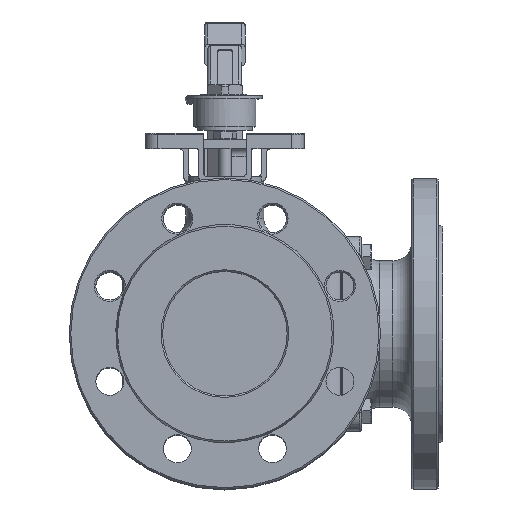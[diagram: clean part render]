
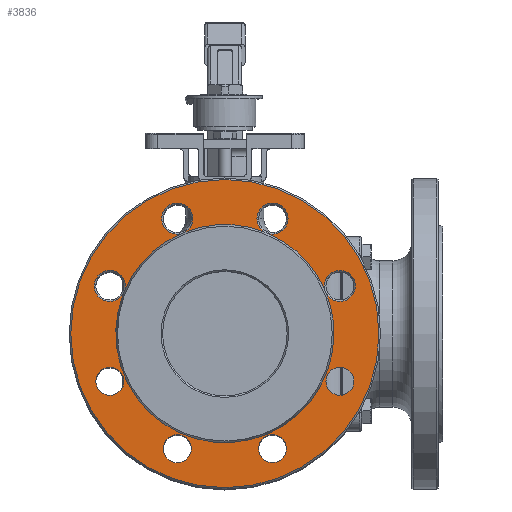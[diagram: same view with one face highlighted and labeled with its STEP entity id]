
A CAD part, top view. The second image highlights one B-rep face of the part: STEP entity #3836.
In plain terms, the highlighted planar face has unit normal (0, 0, 1).
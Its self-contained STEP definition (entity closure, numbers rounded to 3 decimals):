
#3836=ADVANCED_FACE('',(#11734,#11736,#11738,#11740,#11742,#11744),#11746,.T.);
#11734=FACE_BOUND('',#11735,.T.);
#11735=EDGE_LOOP('',(#17762));
#11736=FACE_BOUND('',#11737,.T.);
#11737=EDGE_LOOP('',(#17763,#17764,#17765,#17766,#17767,#17768,#17769,#17770,#17771,
#17772,#17773,#17774,#17775));
#11738=FACE_BOUND('',#11739,.T.);
#11739=EDGE_LOOP('',(#17776));
#11740=FACE_BOUND('',#11741,.T.);
#11741=EDGE_LOOP('',(#17777));
#11742=FACE_BOUND('',#11743,.T.);
#11743=EDGE_LOOP('',(#17778));
#11744=FACE_BOUND('',#11745,.T.);
#11745=EDGE_LOOP('',(#17779));
#11746=PLANE('',#11747);
#11747=AXIS2_PLACEMENT_3D('',#11748,#11749,#11750);
#11748=CARTESIAN_POINT('',(0.,0.,137.));
#11749=DIRECTION('',(0.,0.,1.));
#11750=DIRECTION('',(1.,0.,0.));
#17762=ORIENTED_EDGE('',*,*,#20704,.F.);
#17763=ORIENTED_EDGE('',*,*,#20705,.F.);
#17764=ORIENTED_EDGE('',*,*,#20706,.F.);
#17765=ORIENTED_EDGE('',*,*,#20707,.F.);
#17766=ORIENTED_EDGE('',*,*,#20708,.F.);
#17767=ORIENTED_EDGE('',*,*,#20709,.F.);
#17768=ORIENTED_EDGE('',*,*,#20710,.F.);
#17769=ORIENTED_EDGE('',*,*,#20711,.F.);
#17770=ORIENTED_EDGE('',*,*,#20712,.F.);
#17771=ORIENTED_EDGE('',*,*,#20713,.F.);
#17772=ORIENTED_EDGE('',*,*,#20714,.F.);
#17773=ORIENTED_EDGE('',*,*,#20715,.F.);
#17774=ORIENTED_EDGE('',*,*,#20716,.F.);
#17775=ORIENTED_EDGE('',*,*,#20717,.F.);
#17776=ORIENTED_EDGE('',*,*,#20645,.T.);
#17777=ORIENTED_EDGE('',*,*,#20640,.T.);
#17778=ORIENTED_EDGE('',*,*,#20639,.T.);
#17779=ORIENTED_EDGE('',*,*,#20638,.T.);
#20638=EDGE_CURVE('',#23882,#23882,#23883,.T.);
#20639=EDGE_CURVE('',#23884,#23884,#23885,.T.);
#20640=EDGE_CURVE('',#23886,#23886,#23887,.T.);
#20645=EDGE_CURVE('',#23896,#23896,#23897,.T.);
#20704=EDGE_CURVE('',#24001,#24001,#24002,.T.);
#20705=EDGE_CURVE('',#24003,#24004,#24005,.T.);
#20706=EDGE_CURVE('',#24006,#24003,#24007,.T.);
#20707=EDGE_CURVE('',#24008,#24006,#24009,.T.);
#20708=EDGE_CURVE('',#24010,#24008,#24011,.T.);
#20709=EDGE_CURVE('',#24012,#24010,#24013,.T.);
#20710=EDGE_CURVE('',#24014,#24012,#24015,.T.);
#20711=EDGE_CURVE('',#24016,#24014,#24017,.T.);
#20712=EDGE_CURVE('',#24018,#24016,#24019,.T.);
#20713=EDGE_CURVE('',#24020,#24018,#24021,.T.);
#20714=EDGE_CURVE('',#24022,#24020,#24023,.T.);
#20715=EDGE_CURVE('',#24024,#24022,#24025,.T.);
#20716=EDGE_CURVE('',#24026,#24024,#24027,.T.);
#20717=EDGE_CURVE('',#24004,#24026,#24028,.T.);
#23882=VERTEX_POINT('',#40430);
#23883=CIRCLE('',#40431,9.);
#23884=VERTEX_POINT('',#40435);
#23885=CIRCLE('',#40436,9.);
#23886=VERTEX_POINT('',#40440);
#23887=CIRCLE('',#40441,9.);
#23896=VERTEX_POINT('',#40465);
#23897=CIRCLE('',#40466,9.);
#24001=VERTEX_POINT('',#40883);
#24002=CIRCLE('',#40884,99.);
#24003=VERTEX_POINT('',#40888);
#24004=VERTEX_POINT('',#40889);
#24005=CIRCLE('',#40890,10.);
#24006=VERTEX_POINT('',#40894);
#24007=CIRCLE('',#40895,70.092);
#24008=VERTEX_POINT('',#40899);
#24009=CIRCLE('',#40900,10.);
#24010=VERTEX_POINT('',#40904);
#24011=CIRCLE('',#40905,10.);
#24012=VERTEX_POINT('',#40909);
#24013=CIRCLE('',#40910,70.092);
#24014=VERTEX_POINT('',#40914);
#24015=CIRCLE('',#40915,10.);
#24016=VERTEX_POINT('',#40919);
#24017=CIRCLE('',#40920,10.);
#24018=VERTEX_POINT('',#40924);
#24019=CIRCLE('',#40925,70.092);
#24020=VERTEX_POINT('',#40929);
#24021=CIRCLE('',#40930,10.);
#24022=VERTEX_POINT('',#40934);
#24023=CIRCLE('',#40935,10.);
#24024=VERTEX_POINT('',#40939);
#24025=CIRCLE('',#40940,70.092);
#24026=VERTEX_POINT('',#40944);
#24027=CIRCLE('',#40945,70.092);
#24028=CIRCLE('',#40949,10.);
#40430=CARTESIAN_POINT('',(39.615,-73.91,137.));
#40431=AXIS2_PLACEMENT_3D('',#40432,#40433,#40434);
#40432=CARTESIAN_POINT('',(30.615,-73.91,137.));
#40433=DIRECTION('',(0.,0.,-1.));
#40434=DIRECTION('',(1.,0.,0.));
#40435=CARTESIAN_POINT('',(-21.615,-73.91,137.));
#40436=AXIS2_PLACEMENT_3D('',#40437,#40438,#40439);
#40437=CARTESIAN_POINT('',(-30.615,-73.91,137.));
#40438=DIRECTION('',(0.,0.,-1.));
#40439=DIRECTION('',(1.,0.,0.));
#40440=CARTESIAN_POINT('',(-64.91,-30.615,137.));
#40441=AXIS2_PLACEMENT_3D('',#40442,#40443,#40444);
#40442=CARTESIAN_POINT('',(-73.91,-30.615,137.));
#40443=DIRECTION('',(0.,0.,-1.));
#40444=DIRECTION('',(1.,0.,0.));
#40465=CARTESIAN_POINT('',(82.91,-30.615,137.));
#40466=AXIS2_PLACEMENT_3D('',#40467,#40468,#40469);
#40467=CARTESIAN_POINT('',(73.91,-30.615,137.));
#40468=DIRECTION('',(0.,0.,-1.));
#40469=DIRECTION('',(1.,0.,0.));
#40883=CARTESIAN_POINT('',(99.,0.,137.));
#40884=AXIS2_PLACEMENT_3D('',#40885,#40886,#40887);
#40885=CARTESIAN_POINT('',(0.,0.,137.));
#40886=DIRECTION('',(0.,0.,-1.));
#40887=DIRECTION('',(1.,0.,0.));
#40888=CARTESIAN_POINT('',(-64.261,27.988,137.));
#40889=CARTESIAN_POINT('',(-63.91,30.615,137.));
#40890=AXIS2_PLACEMENT_3D('',#40891,#40892,#40893);
#40891=CARTESIAN_POINT('',(-73.91,30.615,137.));
#40892=DIRECTION('',(0.,0.,1.));
#40893=DIRECTION('',(0.965,-0.263,0.));
#40894=CARTESIAN_POINT('',(-27.988,64.261,137.));
#40895=AXIS2_PLACEMENT_3D('',#40896,#40897,#40898);
#40896=CARTESIAN_POINT('',(0.,0.,137.));
#40897=DIRECTION('',(0.,0.,1.));
#40898=DIRECTION('',(-0.399,0.917,0.));
#40899=CARTESIAN_POINT('',(-20.615,73.91,137.));
#40900=AXIS2_PLACEMENT_3D('',#40901,#40902,#40903);
#40901=CARTESIAN_POINT('',(-30.615,73.91,137.));
#40902=DIRECTION('',(0.,0.,1.));
#40903=DIRECTION('',(1.,0.,0.));
#40904=CARTESIAN_POINT('',(-25.649,65.23,137.));
#40905=AXIS2_PLACEMENT_3D('',#40906,#40907,#40908);
#40906=CARTESIAN_POINT('',(-30.615,73.91,137.));
#40907=DIRECTION('',(0.,0.,1.));
#40908=DIRECTION('',(0.497,-0.868,0.));
#40909=CARTESIAN_POINT('',(25.649,65.23,137.));
#40910=AXIS2_PLACEMENT_3D('',#40911,#40912,#40913);
#40911=CARTESIAN_POINT('',(0.,0.,137.));
#40912=DIRECTION('',(0.,0.,1.));
#40913=DIRECTION('',(0.366,0.931,0.));
#40914=CARTESIAN_POINT('',(40.615,73.91,137.));
#40915=AXIS2_PLACEMENT_3D('',#40916,#40917,#40918);
#40916=CARTESIAN_POINT('',(30.615,73.91,137.));
#40917=DIRECTION('',(0.,0.,1.));
#40918=DIRECTION('',(1.,0.,0.));
#40919=CARTESIAN_POINT('',(27.988,64.261,137.));
#40920=AXIS2_PLACEMENT_3D('',#40921,#40922,#40923);
#40921=CARTESIAN_POINT('',(30.615,73.91,137.));
#40922=DIRECTION('',(0.,0.,1.));
#40923=DIRECTION('',(-0.263,-0.965,0.));
#40924=CARTESIAN_POINT('',(64.261,27.988,137.));
#40925=AXIS2_PLACEMENT_3D('',#40926,#40927,#40928);
#40926=CARTESIAN_POINT('',(0.,0.,137.));
#40927=DIRECTION('',(0.,0.,1.));
#40928=DIRECTION('',(0.917,0.399,0.));
#40929=CARTESIAN_POINT('',(83.91,30.615,137.));
#40930=AXIS2_PLACEMENT_3D('',#40931,#40932,#40933);
#40931=CARTESIAN_POINT('',(73.91,30.615,137.));
#40932=DIRECTION('',(0.,0.,1.));
#40933=DIRECTION('',(1.,0.,0.));
#40934=CARTESIAN_POINT('',(65.23,25.649,137.));
#40935=AXIS2_PLACEMENT_3D('',#40936,#40937,#40938);
#40936=CARTESIAN_POINT('',(73.91,30.615,137.));
#40937=DIRECTION('',(0.,0.,1.));
#40938=DIRECTION('',(-0.868,-0.497,0.));
#40939=CARTESIAN_POINT('',(70.092,0.,137.));
#40940=AXIS2_PLACEMENT_3D('',#40941,#40942,#40943);
#40941=CARTESIAN_POINT('',(0.,0.,137.));
#40942=DIRECTION('',(0.,0.,1.));
#40943=DIRECTION('',(1.,0.,0.));
#40944=CARTESIAN_POINT('',(-65.23,25.649,137.));
#40945=AXIS2_PLACEMENT_3D('',#40946,#40947,#40948);
#40946=CARTESIAN_POINT('',(0.,0.,137.));
#40947=DIRECTION('',(0.,0.,1.));
#40948=DIRECTION('',(-0.931,0.366,0.));
#40949=AXIS2_PLACEMENT_3D('',#40950,#40951,#40952);
#40950=CARTESIAN_POINT('',(-73.91,30.615,137.));
#40951=DIRECTION('',(0.,0.,1.));
#40952=DIRECTION('',(1.,0.,0.));
